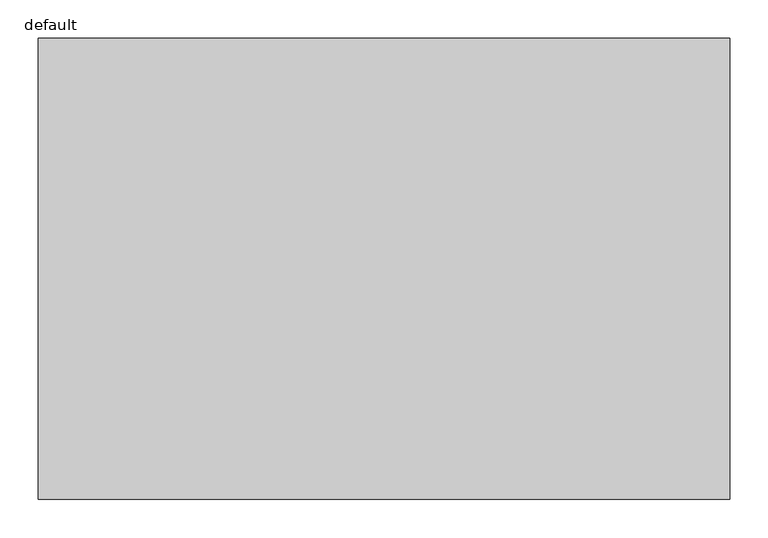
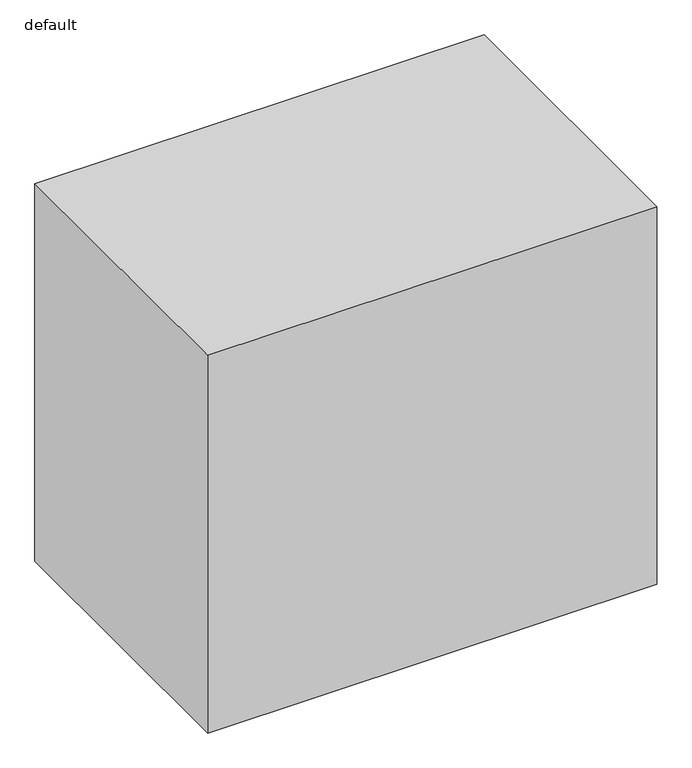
"""IFC4 building model written with IfcOpenShell, lengths in millimetres: furniture geometry, Fu_кухонный напольный модуль_LEG : default."""

from ifc_helpers import new_model, si_unit, origin, origin_with_axes, place, context, project, spatial, polyline, outline, extrude, source, transform, mapped, element, save


def default_8bd5e8aa(model_context):
    return source(origin(), model_context, "Body", "SweptSolid", [
        extrude(outline(polyline([(900.0, 0.0), (0.0, 0.0), (0.0, 600.0), (900.0, 600.0), (900.0, 0.0)])), origin_with_axes(), (0.0, 0.0, 1.0), 800.0),
    ])


if __name__ == "__main__":
    model = new_model("IFC4")
    model_context = context("Model", 3, world=origin())
    ifc_project = project(units=[si_unit("LENGTHUNIT", "METRE", prefix="MILLI")], contexts=[model_context])
    site = spatial("IfcSite", under=ifc_project)
    building = spatial("IfcBuilding", under=site)
    placement = place(None, origin())
    default_shape = default_8bd5e8aa(model_context)
    element("IfcFurniture", 1, ObjectType="Fu_кухонный напольный модуль_LEG : default", at=placement, inside=building, context=model_context, shape_type="MappedRepresentation", body=[
        mapped(default_shape, transform((0.0, 0.0, 0.0), x_axis=(1.0, 0.0, 0.0), y_axis=(0.0, 1.0, 0.0), z_axis=(0.0, 0.0, 1.0))),
    ])
    save(model, "model.ifc")
